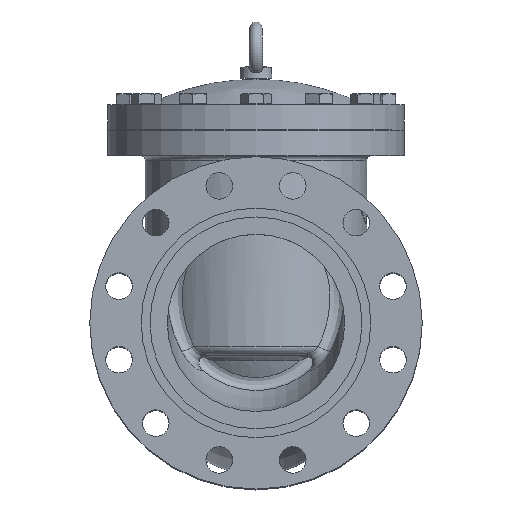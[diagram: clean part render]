
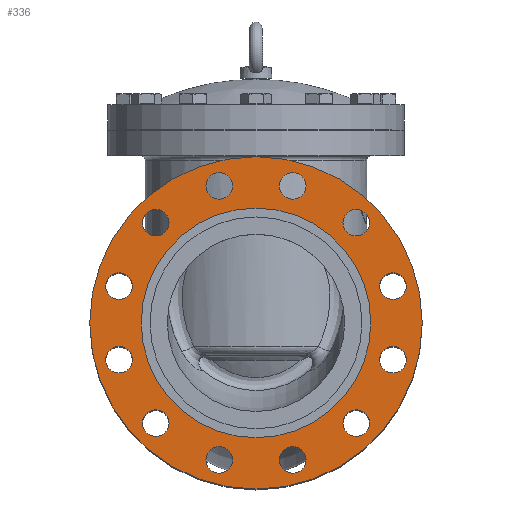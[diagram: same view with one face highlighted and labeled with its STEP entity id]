
A CAD part, top view. The second image highlights one B-rep face of the part: STEP entity #336.
In plain terms, the highlighted planar face has unit normal (0, 0, 1).
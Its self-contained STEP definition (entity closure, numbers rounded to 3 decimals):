
#336=ADVANCED_FACE('',(#3199,#3201,#3203,#3205,#3207,#3209,#3211,#3213,#3215,#3217,
#3219,#3221,#3223,#3225),#3227,.F.);
#3199=FACE_BOUND('',#3200,.T.);
#3200=EDGE_LOOP('',(#7781));
#3201=FACE_BOUND('',#3202,.T.);
#3202=EDGE_LOOP('',(#7782));
#3203=FACE_BOUND('',#3204,.T.);
#3204=EDGE_LOOP('',(#7783));
#3205=FACE_BOUND('',#3206,.T.);
#3206=EDGE_LOOP('',(#7784));
#3207=FACE_BOUND('',#3208,.T.);
#3208=EDGE_LOOP('',(#7785));
#3209=FACE_BOUND('',#3210,.T.);
#3210=EDGE_LOOP('',(#7786));
#3211=FACE_BOUND('',#3212,.T.);
#3212=EDGE_LOOP('',(#7787));
#3213=FACE_BOUND('',#3214,.T.);
#3214=EDGE_LOOP('',(#7788));
#3215=FACE_BOUND('',#3216,.T.);
#3216=EDGE_LOOP('',(#7789));
#3217=FACE_BOUND('',#3218,.T.);
#3218=EDGE_LOOP('',(#7790));
#3219=FACE_BOUND('',#3220,.T.);
#3220=EDGE_LOOP('',(#7791));
#3221=FACE_BOUND('',#3222,.T.);
#3222=EDGE_LOOP('',(#7792));
#3223=FACE_BOUND('',#3224,.T.);
#3224=EDGE_LOOP('',(#7793));
#3225=FACE_BOUND('',#3226,.T.);
#3226=EDGE_LOOP('',(#7794));
#3227=PLANE('',#3228);
#3228=AXIS2_PLACEMENT_3D('',#3229,#3230,#3231);
#3229=CARTESIAN_POINT('',(0.,0.,295.));
#3230=DIRECTION('',(0.,0.,-1.));
#3231=DIRECTION('',(-1.,0.,0.));
#7781=ORIENTED_EDGE('',*,*,#33199,.F.);
#7782=ORIENTED_EDGE('',*,*,#33211,.F.);
#7783=ORIENTED_EDGE('',*,*,#33210,.F.);
#7784=ORIENTED_EDGE('',*,*,#33209,.F.);
#7785=ORIENTED_EDGE('',*,*,#33208,.F.);
#7786=ORIENTED_EDGE('',*,*,#33207,.F.);
#7787=ORIENTED_EDGE('',*,*,#33206,.F.);
#7788=ORIENTED_EDGE('',*,*,#33205,.F.);
#7789=ORIENTED_EDGE('',*,*,#33204,.F.);
#7790=ORIENTED_EDGE('',*,*,#33203,.F.);
#7791=ORIENTED_EDGE('',*,*,#33202,.F.);
#7792=ORIENTED_EDGE('',*,*,#33201,.F.);
#7793=ORIENTED_EDGE('',*,*,#33200,.F.);
#7794=ORIENTED_EDGE('',*,*,#33226,.F.);
#33199=EDGE_CURVE('',#34529,#34529,#34530,.F.);
#33200=EDGE_CURVE('',#34531,#34531,#34532,.F.);
#33201=EDGE_CURVE('',#34533,#34533,#34534,.F.);
#33202=EDGE_CURVE('',#34535,#34535,#34536,.F.);
#33203=EDGE_CURVE('',#34537,#34537,#34538,.F.);
#33204=EDGE_CURVE('',#34539,#34539,#34540,.F.);
#33205=EDGE_CURVE('',#34541,#34541,#34542,.F.);
#33206=EDGE_CURVE('',#34543,#34543,#34544,.F.);
#33207=EDGE_CURVE('',#34545,#34545,#34546,.F.);
#33208=EDGE_CURVE('',#34547,#34547,#34548,.F.);
#33209=EDGE_CURVE('',#34549,#34549,#34550,.F.);
#33210=EDGE_CURVE('',#34551,#34551,#34552,.F.);
#33211=EDGE_CURVE('',#34553,#34553,#34554,.F.);
#33226=EDGE_CURVE('',#34583,#34583,#34584,.T.);
#34529=VERTEX_POINT('',#39922);
#34530=CIRCLE('',#39923,187.5);
#34531=VERTEX_POINT('',#39927);
#34532=CIRCLE('',#39928,15.);
#34533=VERTEX_POINT('',#39932);
#34534=CIRCLE('',#39933,15.);
#34535=VERTEX_POINT('',#39937);
#34536=CIRCLE('',#39938,15.);
#34537=VERTEX_POINT('',#39942);
#34538=CIRCLE('',#39943,15.);
#34539=VERTEX_POINT('',#39947);
#34540=CIRCLE('',#39948,15.);
#34541=VERTEX_POINT('',#39952);
#34542=CIRCLE('',#39953,15.);
#34543=VERTEX_POINT('',#39957);
#34544=CIRCLE('',#39958,15.);
#34545=VERTEX_POINT('',#39962);
#34546=CIRCLE('',#39963,15.);
#34547=VERTEX_POINT('',#39967);
#34548=CIRCLE('',#39968,15.);
#34549=VERTEX_POINT('',#39972);
#34550=CIRCLE('',#39973,15.);
#34551=VERTEX_POINT('',#39977);
#34552=CIRCLE('',#39978,15.);
#34553=VERTEX_POINT('',#39982);
#34554=CIRCLE('',#39983,15.);
#34583=VERTEX_POINT('',#40057);
#34584=CIRCLE('',#40058,129.5);
#39922=CARTESIAN_POINT('',(0.,187.5,295.));
#39923=AXIS2_PLACEMENT_3D('',#39924,#39925,#39926);
#39924=CARTESIAN_POINT('',(0.,0.,295.));
#39925=DIRECTION('',(0.,0.,1.));
#39926=DIRECTION('',(0.,1.,0.));
#39927=CARTESIAN_POINT('',(-154.548,-56.411,295.));
#39928=AXIS2_PLACEMENT_3D('',#39929,#39930,#39931);
#39929=CARTESIAN_POINT('',(-154.548,-41.411,295.));
#39930=DIRECTION('',(0.,0.,-1.));
#39931=DIRECTION('',(0.,-1.,0.));
#39932=CARTESIAN_POINT('',(-105.637,-126.127,295.));
#39933=AXIS2_PLACEMENT_3D('',#39934,#39935,#39936);
#39934=CARTESIAN_POINT('',(-113.137,-113.137,295.));
#39935=DIRECTION('',(0.,0.,-1.));
#39936=DIRECTION('',(0.5,-0.866,0.));
#39937=CARTESIAN_POINT('',(-28.421,-162.048,295.));
#39938=AXIS2_PLACEMENT_3D('',#39939,#39940,#39941);
#39939=CARTESIAN_POINT('',(-41.411,-154.548,295.));
#39940=DIRECTION('',(0.,0.,-1.));
#39941=DIRECTION('',(0.866,-0.5,0.));
#39942=CARTESIAN_POINT('',(56.411,-154.548,295.));
#39943=AXIS2_PLACEMENT_3D('',#39944,#39945,#39946);
#39944=CARTESIAN_POINT('',(41.411,-154.548,295.));
#39945=DIRECTION('',(0.,0.,-1.));
#39946=DIRECTION('',(1.,0.,0.));
#39947=CARTESIAN_POINT('',(126.127,-105.637,295.));
#39948=AXIS2_PLACEMENT_3D('',#39949,#39950,#39951);
#39949=CARTESIAN_POINT('',(113.137,-113.137,295.));
#39950=DIRECTION('',(0.,0.,-1.));
#39951=DIRECTION('',(0.866,0.5,0.));
#39952=CARTESIAN_POINT('',(162.048,-28.421,295.));
#39953=AXIS2_PLACEMENT_3D('',#39954,#39955,#39956);
#39954=CARTESIAN_POINT('',(154.548,-41.411,295.));
#39955=DIRECTION('',(0.,0.,-1.));
#39956=DIRECTION('',(0.5,0.866,0.));
#39957=CARTESIAN_POINT('',(154.548,56.411,295.));
#39958=AXIS2_PLACEMENT_3D('',#39959,#39960,#39961);
#39959=CARTESIAN_POINT('',(154.548,41.411,295.));
#39960=DIRECTION('',(0.,0.,-1.));
#39961=DIRECTION('',(0.,1.,0.));
#39962=CARTESIAN_POINT('',(105.637,126.127,295.));
#39963=AXIS2_PLACEMENT_3D('',#39964,#39965,#39966);
#39964=CARTESIAN_POINT('',(113.137,113.137,295.));
#39965=DIRECTION('',(0.,0.,-1.));
#39966=DIRECTION('',(-0.5,0.866,0.));
#39967=CARTESIAN_POINT('',(28.421,162.048,295.));
#39968=AXIS2_PLACEMENT_3D('',#39969,#39970,#39971);
#39969=CARTESIAN_POINT('',(41.411,154.548,295.));
#39970=DIRECTION('',(0.,0.,-1.));
#39971=DIRECTION('',(-0.866,0.5,0.));
#39972=CARTESIAN_POINT('',(-56.411,154.548,295.));
#39973=AXIS2_PLACEMENT_3D('',#39974,#39975,#39976);
#39974=CARTESIAN_POINT('',(-41.411,154.548,295.));
#39975=DIRECTION('',(0.,0.,-1.));
#39976=DIRECTION('',(-1.,0.,0.));
#39977=CARTESIAN_POINT('',(-126.127,105.637,295.));
#39978=AXIS2_PLACEMENT_3D('',#39979,#39980,#39981);
#39979=CARTESIAN_POINT('',(-113.137,113.137,295.));
#39980=DIRECTION('',(0.,0.,-1.));
#39981=DIRECTION('',(-0.866,-0.5,0.));
#39982=CARTESIAN_POINT('',(-162.048,28.421,295.));
#39983=AXIS2_PLACEMENT_3D('',#39984,#39985,#39986);
#39984=CARTESIAN_POINT('',(-154.548,41.411,295.));
#39985=DIRECTION('',(0.,0.,-1.));
#39986=DIRECTION('',(-0.5,-0.866,0.));
#40057=CARTESIAN_POINT('',(-129.5,0.,295.));
#40058=AXIS2_PLACEMENT_3D('',#40059,#40060,#40061);
#40059=CARTESIAN_POINT('',(0.,0.,295.));
#40060=DIRECTION('',(0.,0.,1.));
#40061=DIRECTION('',(-1.,0.,0.));
